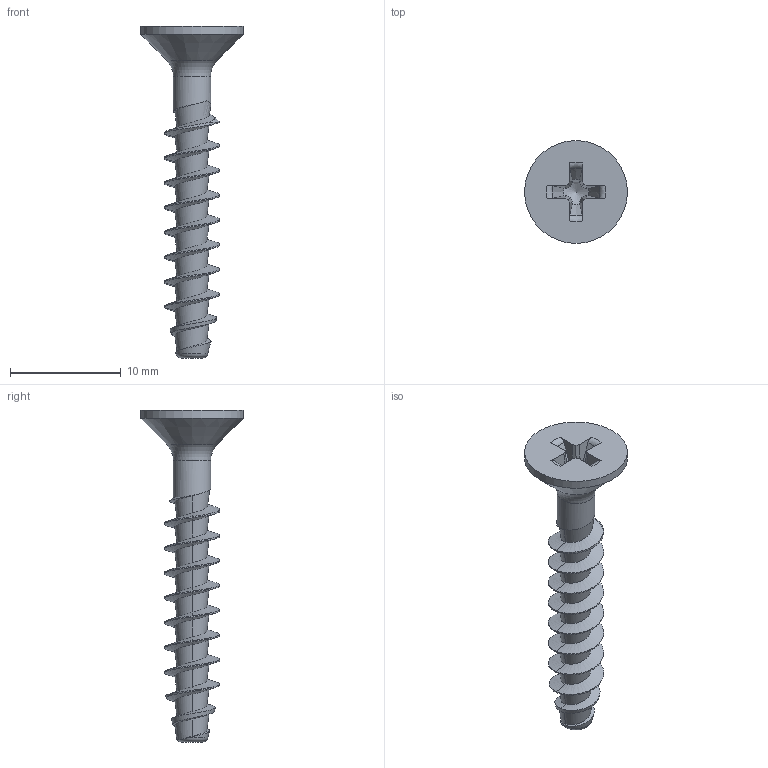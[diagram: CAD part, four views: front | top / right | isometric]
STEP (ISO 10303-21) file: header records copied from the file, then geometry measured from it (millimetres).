
FILE_DESCRIPTION(/* description */ (''),/* implementation_level */ '2;1');
FILE_NAME(/* name */ 'KN1033-STS-Neu-50x30-H2.step',/* time_stamp */ '2019-01-09T15:50:49+01:00',/* author */ (''),/* organization */ (''),/* preprocessor_version */ 'ST-DEVELOPER v16',/* originating_system */ 'SIEMENS PLM Software NX 10.0',/* authorisation */ '');
FILE_SCHEMA (('AUTOMOTIVE_DESIGN { 1 0 10303 214 3 1 1 1 }'));
Length unit declared in the file: millimetre
Products named in the file (1): KN1033-STS-Neu-50x30-H2
Bounding box: 9.3 x 9.3 x 30 mm (x, y, z)
Volume: 361.5 mm3; surface area: 645.1 mm2
Topology: 1 solids, 1 shells, 69 faces, 178 edges, 111 vertices
Faces by surface type: bspline 33, plane 18, cone 8, torus 6, cylinder 4
Full cylindrical faces by diameter (mm): 3.39 x1, 9.3 x1
Entity records: 4038 total; most frequent: CARTESIAN_POINT 2671, ORIENTED_EDGE 330, DIRECTION 172, EDGE_CURVE 165, VERTEX_POINT 106, B_SPLINE_CURVE_WITH_KNOTS 86, EDGE_LOOP 74, ADVANCED_FACE 68
